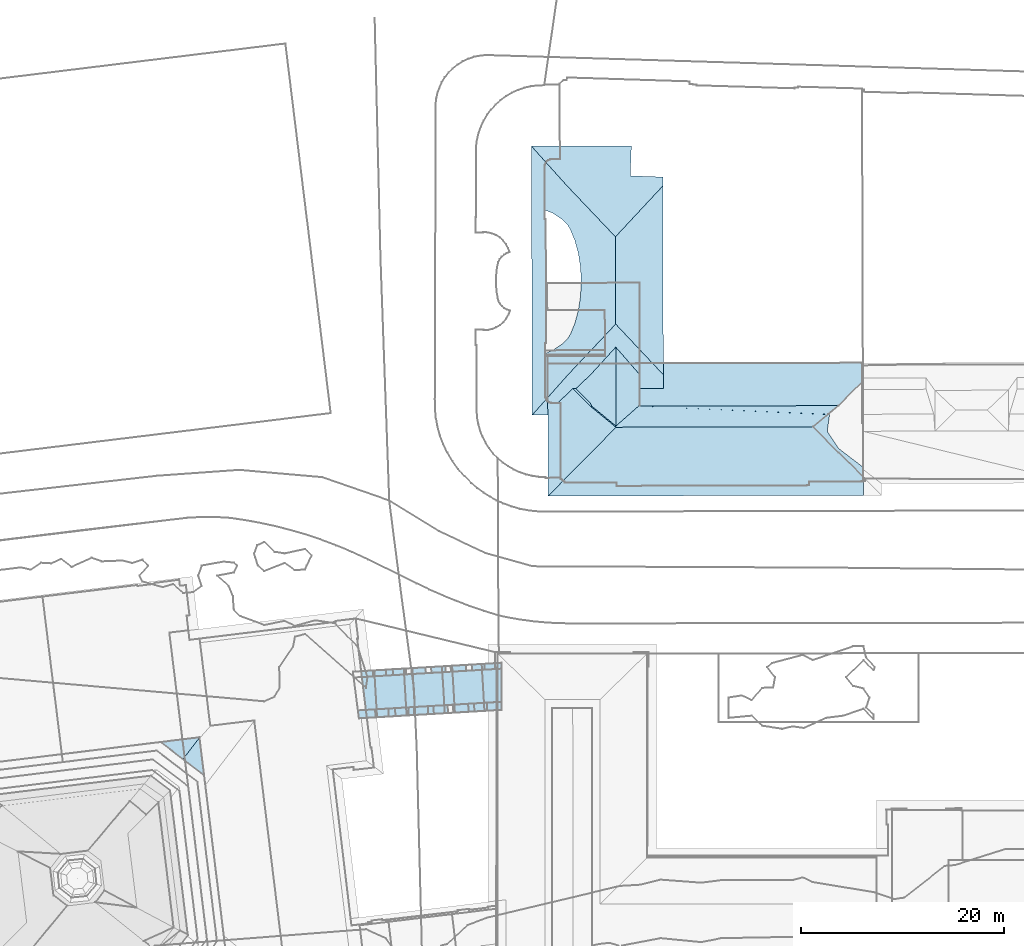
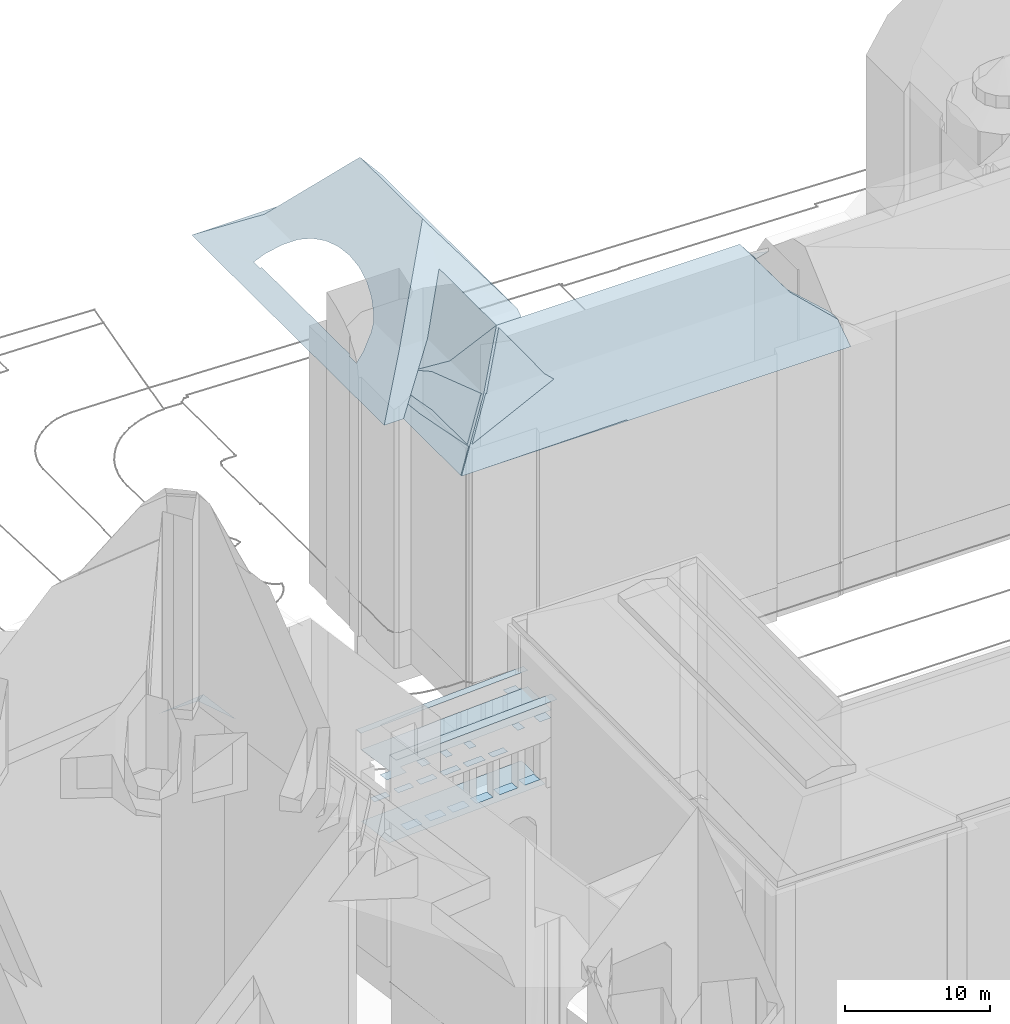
# Not in any storey, part 90 of 477: 25 roofs.
"""IFC4 building model written with IfcOpenShell, lengths in metres."""

from ifc_helpers import new_model, si_unit, frame, origin_with_axes, place, context, subcontext, project, spatial, polygons, element, save


model = new_model("IFC4")

# Units and contexts
model_context = context("Model", 3, precision=1e-05, world=origin_with_axes())
body_context = subcontext(model_context, "Body", "Model", "MODEL_VIEW")
ifc_project = project(units=[si_unit("AREAUNIT", "SQUARE_METRE"), si_unit("LENGTHUNIT", "METRE")], contexts=[model_context])

# Sites, building
site_1_placement = place(None, origin_with_axes())
site_1 = spatial("IfcSite", under=ifc_project, at=site_1_placement, Name="Topoexport Site")
site_2_placement = place(site_1_placement, origin_with_axes())
site_2 = spatial("IfcSite", under=site_1, at=site_2_placement, Name="TPX_BUILDINGS")
building_1_placement = place(site_2_placement, frame((211.8297320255, 101.9383160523, 526.7541), z_axis=(0.0, 0.0, 1.0), x_axis=(1.0, 0.0, 0.0)))
building_1 = spatial("IfcBuilding", under=site_2, at=building_1_placement, Name="Building 18", CompositionType="ELEMENT")

# Roofs
roof_1_placement = place(None, frame((211.8297320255, 101.9383160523, 526.7541), z_axis=(0.0, 0.0, 1.0), x_axis=(1.0, 0.0, 0.0)))
element("IfcRoof", 1, at=roof_1_placement, inside=building_1, Name="Roof 27", context=body_context, shape_type="Tessellation", body=[
    polygons([(360.8040000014, 301.9393999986, 24.3019), (359.5529999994, 301.8641999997, 24.3019), (359.506000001, 302.6493999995, 24.3019), (360.757000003, 302.7245999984, 24.3019)], [[[3, 2, 1]], [[1, 4, 3]]]),
])
roof_2_placement = place(None, frame((211.8297320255, 101.9383160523, 526.7541), z_axis=(0.0, 0.0, 1.0), x_axis=(1.0, 0.0, 0.0)))
element("IfcRoof", 2, at=roof_2_placement, inside=building_1, Name="Roof 28", context=body_context, shape_type="Tessellation", body=[
    polygons([(351.1050000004, 301.3603000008, 24.3019), (349.813000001, 301.2831999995, 24.3019), (349.7660000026, 302.0692999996, 24.3019), (351.0580000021, 302.1464999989, 24.3019)], [[[3, 2, 1]], [[1, 4, 3]]]),
])
roof_3_placement = place(None, frame((211.8297320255, 101.9383160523, 526.7541), z_axis=(0.0, 0.0, 1.0), x_axis=(1.0, 0.0, 0.0)))
element("IfcRoof", 3, at=roof_3_placement, inside=building_1, Name="Roof 29", context=body_context, shape_type="Tessellation", body=[
    polygons([(353.0720000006, 301.4774999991, 24.3019), (351.7730000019, 301.4004000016, 24.3019), (351.7259999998, 302.1865000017, 24.3019), (353.0250000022, 302.2637000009, 24.3019)], [[[3, 2, 1]], [[1, 4, 3]]]),
])
roof_4_placement = place(None, frame((211.8297320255, 101.9383160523, 526.7541), z_axis=(0.0, 0.0, 1.0), x_axis=(1.0, 0.0, 0.0)))
element("IfcRoof", 4, at=roof_4_placement, inside=building_1, Name="Roof 30", context=body_context, shape_type="Tessellation", body=[
    polygons([(355.0040000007, 301.5936999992, 24.3019), (353.620000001, 301.5106999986, 24.3019), (353.5730000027, 302.2969000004, 24.3019), (354.9570000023, 302.378899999, 24.3019)], [[[3, 2, 1]], [[1, 4, 3]]]),
])
roof_5_placement = place(None, frame((211.8297320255, 101.9383160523, 526.7541), z_axis=(0.0, 0.0, 1.0), x_axis=(1.0, 0.0, 0.0)))
element("IfcRoof", 5, at=roof_5_placement, inside=building_1, Name="Roof 31", context=body_context, shape_type="Tessellation", body=[
    polygons([(358.9739999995, 301.8300999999, 24.3019), (357.4750000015, 301.7402000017, 24.3019), (357.4279999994, 302.5263999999, 24.3019), (358.9270000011, 302.6152000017, 24.3019)], [[[3, 2, 1]], [[1, 4, 3]]]),
])
roof_6_placement = place(None, frame((211.8297320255, 101.9383160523, 526.7541), z_axis=(0.0, 0.0, 1.0), x_axis=(1.0, 0.0, 0.0)))
element("IfcRoof", 6, at=roof_6_placement, inside=building_1, Name="Roof 32", context=body_context, shape_type="Tessellation", body=[
    polygons([(356.9470000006, 301.7089999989, 24.3019), (355.5560000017, 301.6259999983, 24.3019), (355.5089999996, 302.4111000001, 24.3019), (356.9000000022, 302.4941000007, 24.3019)], [[[3, 2, 1]], [[1, 4, 3]]]),
])
roof_7_placement = place(None, frame((211.8297320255, 101.9383160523, 526.7541), z_axis=(0.0, 0.0, 1.0), x_axis=(1.0, 0.0, 0.0)))
element("IfcRoof", 7, at=roof_7_placement, inside=building_1, Name="Roof 33", context=body_context, shape_type="Tessellation", body=[
    polygons([(353.620000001, 301.5106999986, 29.1525), (353.0250000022, 302.2637000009, 29.1525), (353.5730000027, 302.2969000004, 29.1525), (353.0720000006, 301.4774999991, 29.1525)], [[[3, 2, 1]], [[2, 4, 1]]]),
])
roof_8_placement = place(None, frame((211.8297320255, 101.9383160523, 526.7541), z_axis=(0.0, 0.0, 1.0), x_axis=(1.0, 0.0, 0.0)))
element("IfcRoof", 8, at=roof_8_placement, inside=building_1, Name="Roof 35", context=body_context, shape_type="Tessellation", body=[
    polygons([(358.9270000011, 302.6152000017, 29.1524), (359.506000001, 302.6493999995, 29.1524), (358.9739999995, 301.8300999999, 29.1524), (359.5529999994, 301.8641999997, 29.1524)], [[[3, 2, 1]], [[4, 2, 3]]]),
])
roof_9_placement = place(None, frame((211.8297320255, 101.9383160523, 526.7541), z_axis=(0.0, 0.0, 1.0), x_axis=(1.0, 0.0, 0.0)))
element("IfcRoof", 9, at=roof_9_placement, inside=building_1, Name="Roof 36", context=body_context, shape_type="Tessellation", body=[
    polygons([(355.5560000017, 301.6259999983, 29.1524), (355.0040000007, 301.5936999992, 29.1525), (355.5089999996, 302.4111000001, 29.1525), (354.9570000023, 302.378899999, 29.1525)], [[[3, 2, 1]], [[4, 2, 3]]]),
])
roof_10_placement = place(None, frame((211.8297320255, 101.9383160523, 526.7541), z_axis=(0.0, 0.0, 1.0), x_axis=(1.0, 0.0, 0.0)))
element("IfcRoof", 10, at=roof_10_placement, inside=building_1, Name="Roof 39", context=body_context, shape_type="Tessellation", body=[
    polygons([(360.5639999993, 305.9736000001, 24.3019), (359.3120000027, 305.8984000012, 24.3019), (359.2770000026, 306.4774999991, 24.3019), (360.5290000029, 306.5527000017, 24.3019)], [[[3, 2, 1]], [[1, 4, 3]]]),
])
roof_11_placement = place(None, frame((211.8297320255, 101.9383160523, 526.7541), z_axis=(0.0, 0.0, 1.0), x_axis=(1.0, 0.0, 0.0)))
element("IfcRoof", 11, at=roof_11_placement, inside=building_1, Name="Roof 40", context=body_context, shape_type="Tessellation", body=[
    polygons([(350.8650000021, 305.3955000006, 24.3019), (349.5730000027, 305.3183000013, 24.3019), (349.5380000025, 305.8964999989, 24.3019), (350.8300000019, 305.9745999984, 24.3019)], [[[3, 2, 1]], [[1, 4, 3]]]),
])
roof_12_placement = place(None, frame((211.8297320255, 101.9383160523, 526.7541), z_axis=(0.0, 0.0, 1.0), x_axis=(1.0, 0.0, 0.0)))
element("IfcRoof", 12, at=roof_12_placement, inside=building_1, Name="Roof 41", context=body_context, shape_type="Tessellation", body=[
    polygons([(352.8320000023, 305.5126999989, 24.3019), (351.5329999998, 305.4345999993, 24.3019), (351.4979999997, 306.0137000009, 24.3019), (352.7970000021, 306.0918000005, 24.3019)], [[[3, 2, 1]], [[1, 4, 3]]]),
])
roof_13_placement = place(None, frame((211.8297320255, 101.9383160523, 526.7541), z_axis=(0.0, 0.0, 1.0), x_axis=(1.0, 0.0, 0.0)))
element("IfcRoof", 13, at=roof_13_placement, inside=building_1, Name="Roof 42", context=body_context, shape_type="Tessellation", body=[
    polygons([(354.7640000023, 305.6268999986, 24.3019), (353.3800000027, 305.5458999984, 24.3019), (353.3450000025, 306.1229999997, 24.3019), (354.7290000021, 306.2060000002, 24.3019)], [[[3, 2, 1]], [[1, 4, 3]]]),
])
roof_14_placement = place(None, frame((211.8297320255, 101.9383160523, 526.7541), z_axis=(0.0, 0.0, 1.0), x_axis=(1.0, 0.0, 0.0)))
element("IfcRoof", 14, at=roof_14_placement, inside=building_1, Name="Roof 43", context=body_context, shape_type="Tessellation", body=[
    polygons([(358.7340000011, 305.8641999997, 24.3019), (357.2349999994, 305.7754000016, 24.3019), (357.200000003, 306.3535000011, 24.3019), (358.699000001, 306.4433000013, 24.3019)], [[[3, 2, 1]], [[1, 4, 3]]]),
])
roof_15_placement = place(None, frame((211.8297320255, 101.9383160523, 526.7541), z_axis=(0.0, 0.0, 1.0), x_axis=(1.0, 0.0, 0.0)))
element("IfcRoof", 15, at=roof_15_placement, inside=building_1, Name="Roof 44", context=body_context, shape_type="Tessellation", body=[
    polygons([(356.7070000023, 305.7430999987, 24.3019), (355.3159999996, 305.6601000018, 24.3019), (355.2809999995, 306.2391999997, 24.3019), (356.6720000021, 306.3222000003, 24.3019)], [[[3, 2, 1]], [[1, 4, 3]]]),
])
roof_16_placement = place(None, frame((211.8297320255, 101.9383160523, 526.7541), z_axis=(0.0, 0.0, 1.0), x_axis=(1.0, 0.0, 0.0)))
element("IfcRoof", 16, at=roof_16_placement, inside=building_1, Name="Roof 45", context=body_context, shape_type="Tessellation", body=[
    polygons([(361.7160000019, 302.7811999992, 23.11), (348.8570000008, 302.0155999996, 23.11), (348.4600000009, 305.2509999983, 23.11), (361.700000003, 306.0410000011, 23.11)], [[[3, 2, 1]], [[1, 4, 3]]]),
])
roof_17_placement = place(None, frame((211.8297320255, 101.9383160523, 526.7541), z_axis=(0.0, 0.0, 1.0), x_axis=(1.0, 0.0, 0.0)))
element("IfcRoof", 17, at=roof_17_placement, inside=building_1, Name="Roof 46", context=body_context, shape_type="Tessellation", body=[
    polygons([(351.7730000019, 301.4004000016, 29.1525), (351.0580000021, 302.1464999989, 29.1525), (351.7259999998, 302.1865000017, 29.1525), (351.1050000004, 301.3603000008, 29.1525)], [[[3, 2, 1]], [[4, 1, 2]]]),
])

# Building
building_2_placement = place(site_2_placement, frame((578.3317320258, 440.0389160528, 564.4028), z_axis=(0.0, 0.0, 1.0), x_axis=(1.0, 0.0, 0.0)))
building_2 = spatial("IfcBuilding", under=site_2, at=building_2_placement, Name="Building 190", CompositionType="ELEMENT")

# Roofs
roof_18_placement = place(None, frame((578.3317320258, 440.0389160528, 564.4028), z_axis=(0.0, 0.0, 1.0), x_axis=(1.0, 0.0, 0.0)))
element("IfcRoof", 18, at=roof_18_placement, inside=building_2, Name="Roof 0", context=body_context, shape_type="Tessellation", body=[
    polygons([(4.4539999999, -10.8018000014, 0.1949), (9.3350000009, -10.7901000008, 0.1949), (1.7630000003, -13.503899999, -1.6629), (0.262000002, -15.0108000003, -2.6998), (12.5720000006, -14.0078000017, -2.0299), (13.5470000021, -14.9785000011, -2.6998), (0.2420000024, -7.0331999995, -2.6998), (4.4350000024, -3.0821000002, 0.195), (1.5360000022, -7.0302999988, -2.6998), (0.5329999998, -7.0322999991, -2.6998), (1.5350000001, -6.0879000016, -2.0078), (0.3920000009, -5.8007999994, -2.5948), (0.2420000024, -6.7608000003, -2.6998), (0.2750000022, -5.7393000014, -2.6748), (0.5650000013, -5.8819000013, -2.4758), (0.2390000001, -5.7080000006, -2.6998), (1.1840000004, -5.8720999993, -2.0488), (0.5659999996, -5.8330000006, -2.4748), (9.3200000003, -4.7032000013, -1.0049), (9.3170000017, -3.3418000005, -0.005), (11.6240000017, -3.0645000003, 0.1949), (9.3159999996, -3.0703000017, 0.1949), (11.6280000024, -4.697300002, -1.0049), (-1.2969999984, -7.0371000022, -2.6998), (0.0910000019, -5.4756000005, -1.5549), (2.2129999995, -3.0868999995, 0.195), (8.3670000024, 16.5282999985, -0.541), (2.1669999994, 15.5106999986, 0.195), (0.0670000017, 17.8456999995, -1.5258), (11.5780000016, 15.5341999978, 0.195), (8.4279999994, 18.1503999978, -1.7328), (-1.3619999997, 19.4433000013, -2.6997), (1.4499999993, 19.4510999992, -2.6997), (8.4620000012, 19.0361000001, -2.3828), (11.5760000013, 16.4072000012, -0.446), (8.4780000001, 19.4677000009, -2.6997), (0.0, 0.0223999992, -1.6189), (0.0030000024, -0.9444000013, -1.6179), (0.0879999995, 3.2938999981, -1.5389), (0.0980000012, 0.0234000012, -1.5379), (-0.0409999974, 12.253899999, -1.6268), (0.7060000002, -0.6757999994, -1.0389), (-0.0419999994, 13.1473999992, -1.6248), (0.0590000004, 12.253899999, -1.5439), (1.7250000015, 0.004900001, -0.2), (2.2039999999, 0.496100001, 0.195), (1.693, 12.2060000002, -0.2), (1.182, 12.5438999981, -0.6199), (0.6720000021, 12.8808000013, -1.0389), (2.1770000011, 11.7148000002, 0.196), (6.9570000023, -8.2344000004, 3.5676), (7.0980000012, -8.2344000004, 3.3676), (9.3350000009, -10.6376999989, 0.1949), (6.938000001, -0.3456999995, 3.5676), (9.324000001, -6.2763999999, 0.1949), (6.9090000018, 10.5205000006, 6.3774), (6.9299999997, 1.9266999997, 6.3774), (3.4690000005, 4.677699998, 1.8618), (3.2609999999, 3.3007999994, 1.5858), (3.5370000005, 6.1083999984, 1.9548), (2.4629999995, 0.9188999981, 0.5349), (2.9220000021, 2.0322000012, 1.1379), (3.4620000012, 7.5410000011, 1.8618), (3.2470000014, 8.9169999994, 1.5858), (2.9020000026, 10.183600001, 1.1379), (2.436999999, 11.2949000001, 0.5349)], [[[3, 2, 1]], [[5, 3, 4]], [[3, 5, 2]], [[5, 4, 6]], [[7, 4, 3]], [[1, 8, 7]], [[1, 7, 3]], [[11, 10, 9]], [[14, 13, 12]], [[13, 15, 12]], [[13, 14, 16]], [[17, 15, 13]], [[15, 18, 12]], [[21, 20, 19]], [[22, 20, 21]], [[23, 21, 19]], [[25, 24, 7]], [[8, 26, 25]], [[8, 25, 7]], [[29, 28, 27]], [[27, 28, 30]], [[29, 27, 31]], [[29, 33, 32]], [[33, 29, 31]], [[33, 31, 34]], [[30, 35, 27]], [[34, 36, 33]], [[24, 38, 37]], [[38, 24, 25]], [[37, 39, 24]], [[32, 24, 39]], [[39, 37, 40]], [[32, 39, 41]], [[42, 38, 25]], [[41, 43, 32]], [[32, 43, 29]], [[44, 41, 39]], [[25, 45, 42]], [[26, 46, 45]], [[25, 26, 45]], [[28, 48, 47]], [[48, 28, 29]], [[48, 29, 49]], [[47, 50, 28]], [[49, 29, 43]], [[1, 2, 51]], [[2, 53, 52]], [[52, 51, 2]], [[52, 55, 54]], [[54, 55, 22]], [[52, 54, 51]], [[1, 51, 8]], [[54, 8, 51]], [[28, 56, 30]], [[57, 21, 30]], [[30, 56, 57]], [[59, 57, 58]], [[60, 58, 57]], [[46, 26, 61]], [[61, 26, 62]], [[59, 62, 26]], [[26, 57, 59]], [[63, 60, 56]], [[64, 63, 56]], [[65, 64, 56]], [[60, 57, 56]], [[65, 28, 66]], [[66, 28, 50]], [[56, 28, 65]], [[57, 26, 54]], [[54, 26, 8]], [[54, 22, 21]], [[54, 21, 57]], [[31, 27, 34]]]),
])
roof_19_placement = place(None, frame((578.3317320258, 440.0389160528, 564.4028), z_axis=(0.0, 0.0, 1.0), x_axis=(1.0, 0.0, 0.0)))
element("IfcRoof", 19, at=roof_19_placement, inside=building_2, Name="Roof 1", context=body_context, shape_type="Tessellation", body=[
    polygons([(27.8520000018, -6.9668000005, 1.5968), (27.8450000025, -6.9737000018, 1.6008), (9.1830000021, -6.1533000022, 0.195), (28.8890000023, -6.1055000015, 0.1951), (9.3230000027, -5.8643000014, -0.005), (9.319000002, -4.4219000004, -0.9989), (11.6270000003, -4.4169999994, -0.9989), (11.6209999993, -1.9492000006, -2.6998), (31.2930000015, -3.6904999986, -1.4657), (31.2880000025, -1.9004000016, -2.6996), (27.9360000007, -7.3828000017, 1.48), (31.318, -12.1875, -1.4688), (28.9000000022, -10.7422000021, 0.1951), (28.8990000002, -10.3359999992, 0.1951), (31.3210000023, -13.1493999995, -1.4688), (4.4539999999, -10.8018000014, 0.1949), (1.7630000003, -13.503899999, -1.6629), (0.262000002, -15.0108000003, -2.6998), (31.3260000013, -14.9345999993, -2.6996), (0.2740000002, -5.7382999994, -2.6758), (0.3920000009, -5.8007999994, -2.5948), (0.5650000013, -5.8819000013, -2.4758), (0.2390000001, -5.7080000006, -2.6998), (4.4420000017, -6.1651000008, 0.1949), (2.0190000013, -5.0850000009, -1.4729), (1.1840000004, -5.8720999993, -2.0488), (0.5659999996, -5.8330000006, -2.4748), (2.7050000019, -4.438500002, -0.9989), (2.9959999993, -4.438500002, -0.9989), (4.4420000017, -5.876000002, -0.005), (4.5910000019, -6.1651000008, 0.1949), (26.3839999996, -8.1865999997, 3.5676), (6.9570000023, -8.2344000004, 3.5676), (6.9570000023, -8.1114000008, 3.3676), (8.0700000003, -7.1319000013, 1.7818), (28.1480000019, -6.7206999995, 1.193), (27.8540000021, -6.9649000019, 1.5888), (27.762000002, -8.6407000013, 1.7178), (27.993999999, -6.9649000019, 1.4)], [[[3, 2, 1]], [[5, 3, 4]], [[7, 6, 5]], [[9, 8, 7]], [[9, 7, 4]], [[4, 7, 5]], [[9, 10, 8]], [[11, 1, 2]], [[14, 13, 12]], [[15, 12, 13]], [[17, 15, 16]], [[19, 17, 18]], [[13, 16, 15]], [[15, 17, 19]], [[18, 21, 20]], [[21, 18, 22]], [[18, 17, 22]], [[23, 18, 20]], [[25, 16, 24]], [[17, 16, 25]], [[17, 26, 22]], [[27, 21, 22]], [[25, 26, 17]], [[28, 25, 24]], [[29, 28, 24]], [[24, 31, 30]], [[24, 30, 29]], [[34, 33, 32]], [[34, 31, 33]], [[24, 33, 31]], [[35, 32, 2]], [[32, 35, 34]], [[35, 2, 3]], [[36, 4, 3]], [[36, 3, 37]], [[1, 37, 3]], [[33, 16, 13]], [[13, 32, 33]], [[32, 38, 11]], [[38, 32, 14]], [[14, 32, 13]], [[37, 39, 36]], [[1, 11, 37]], [[11, 39, 37]], [[11, 2, 32]], [[16, 33, 24]]]),
])

# Building
building_3_placement = place(site_2_placement, frame((516.5377320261, 359.7107160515, 536.6602), z_axis=(0.0, 0.0, 1.0), x_axis=(1.0, 0.0, 0.0)))
building_3 = spatial("IfcBuilding", under=site_2, at=building_3_placement, Name="Building 193", CompositionType="ELEMENT")

# Roofs
roof_20_placement = place(None, frame((516.5377320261, 359.7107160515, 536.6602), z_axis=(0.0, 0.0, 1.0), x_axis=(1.0, 0.0, 0.0)))
element("IfcRoof", 20, at=roof_20_placement, inside=building_3, Name="Roof 11", context=body_context, shape_type="Tessellation", body=[
    polygons([(28.2190000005, 37.7872000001, 33.087), (26.1059999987, 39.3995000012, 34.3969), (27.7569999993, 41.5489000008, 33.087), (23.9090000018, 41.0762000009, 33.087)], [[[3, 2, 1]], [[2, 3, 4]]]),
])
roof_21_placement = place(None, frame((516.5377320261, 359.7107160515, 536.6602), z_axis=(0.0, 0.0, 1.0), x_axis=(1.0, 0.0, 0.0)))
element("IfcRoof", 21, at=roof_21_placement, inside=building_3, Name="Roof 16", context=body_context, shape_type="Tessellation", body=[
    polygons([(44.245000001, 43.4590000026, 20.6042), (44.1490000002, 44.2432000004, 20.6042), (57.5280000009, 44.251000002, 20.6042), (57.5250000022, 45.0410999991, 20.6042)], [[[3, 2, 1]], [[4, 2, 3]]]),
])
roof_22_placement = place(None, frame((516.5377320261, 359.7107160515, 536.6602), z_axis=(0.0, 0.0, 1.0), x_axis=(1.0, 0.0, 0.0)))
element("IfcRoof", 22, at=roof_22_placement, inside=building_3, Name="Roof 17", context=body_context, shape_type="Tessellation", body=[
    polygons([(43.7520000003, 47.4785999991, 20.6042), (43.6810000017, 48.0547000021, 20.6042), (57.5140000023, 48.2998000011, 20.6042), (57.512000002, 48.8808999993, 20.6042)], [[[3, 2, 1]], [[4, 2, 3]]]),
])
roof_23_placement = place(None, frame((516.5377320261, 359.7107160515, 536.6602), z_axis=(0.0, 0.0, 1.0), x_axis=(1.0, 0.0, 0.0)))
element("IfcRoof", 23, at=roof_23_placement, inside=building_3, Name="Roof 39", context=body_context, shape_type="Tessellation", body=[
    polygons([(43.7520000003, 47.4785999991, 19.2464), (57.5250000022, 45.0410999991, 19.2463), (45.0580000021, 44.2969000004, 19.2464), (44.1490000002, 44.2432000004, 19.2464), (45.1050000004, 43.5108000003, 19.2464), (43.4649999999, 43.4131000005, 19.2464), (57.5140000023, 48.2998000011, 19.2464), (43.3640000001, 44.1963, 19.2464)], [[[3, 2, 1]], [[5, 3, 4]], [[1, 4, 3]], [[5, 4, 6]], [[1, 2, 7]], [[8, 6, 4]]]),
])

# Building
building_4_placement = place(site_2_placement, frame((572.3587320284, 408.4910160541, 550.1071), z_axis=(0.0, 0.0, 1.0), x_axis=(1.0, 0.0, 0.0)))
building_4 = spatial("IfcBuilding", under=site_2, at=building_4_placement, Name="Building 194", CompositionType="ELEMENT")

# Roofs
roof_24_placement = place(None, frame((572.3587320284, 408.4910160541, 550.1071), z_axis=(0.0, 0.0, 1.0), x_axis=(1.0, 0.0, 0.0)))
element("IfcRoof", 24, at=roof_24_placement, inside=building_4, Name="Roof 2", context=body_context, shape_type="Tessellation", body=[
    polygons([(1.1909999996, -4.5596000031, 5.7994), (0.2749999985, -4.6133000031, 5.7994), (0.2280000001, -3.8281000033, 5.7994), (1.186999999, -3.7715000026, 5.7994)], [[[3, 2, 1]], [[3, 1, 4]]]),
])
roof_25_placement = place(None, frame((572.3587320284, 408.4910160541, 550.1071), z_axis=(0.0, 0.0, 1.0), x_axis=(1.0, 0.0, 0.0)))
element("IfcRoof", 25, at=roof_25_placement, inside=building_4, Name="Roof 3", context=body_context, shape_type="Tessellation", body=[
    polygons([(1.0339999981, -0.3564000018, 5.7995), (0.0, 0.0, 5.7995), (1.0319999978, 0.061499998, 5.7995), (0.0349999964, -0.5791000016, 5.7995), (1.1699999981, -0.3545000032, 5.7995), (1.1710000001, -0.5117000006, 5.7995)], [[[3, 2, 1]], [[1, 2, 4]], [[1, 6, 5]], [[6, 1, 4]]]),
])

save(model, "model.ifc")
